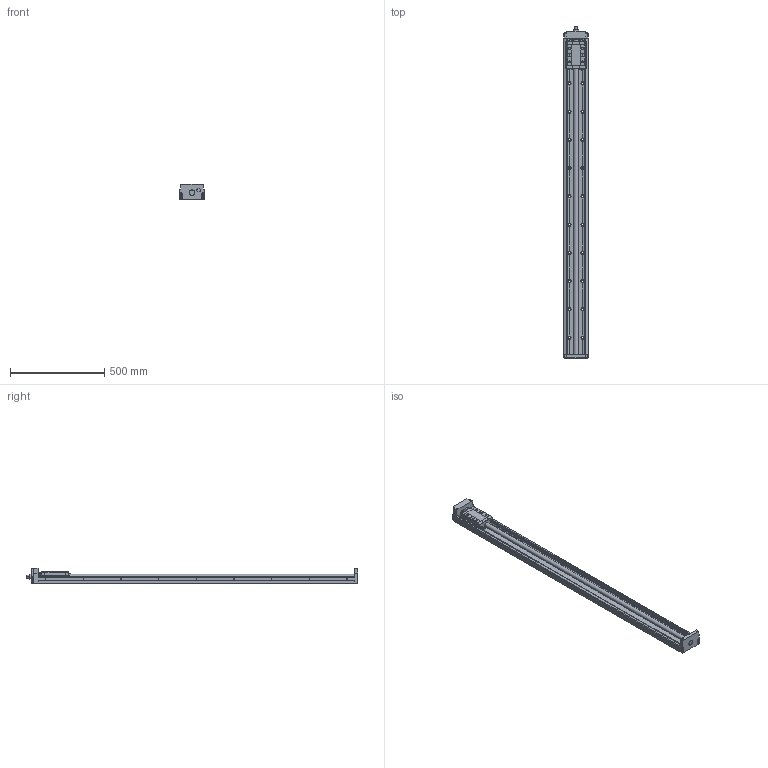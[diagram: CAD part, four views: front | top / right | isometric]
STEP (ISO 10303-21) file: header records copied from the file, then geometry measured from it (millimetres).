
FILE_DESCRIPTION(('no description'),'unknown implementation level');
FILE_NAME('KK13025P1680A1H0000_FILE_58.stp',' ',('HIWIN GmbH'),('CADClick - KiM GmbH - www.kimweb.de'),'unknown preprocess','ACIS','unknown authorization');
FILE_SCHEMA(('automotive_design'));
Length unit declared in the file: millimetre
Products named in the file (2): KK130_FILE; KK13025P1680A1H0000_FILE
Bounding box: 130 x 1762 x 83 mm (x, y, z)
Volume: 6382858.9 mm3; surface area: 913881 mm2
Topology: 2 solids, 13 shells, 810 faces, 2000 edges, 1299 vertices
Faces by surface type: plane 476, cylinder 292, torus 38, cone 2, sphere 2
Entity records: 47234 total; most frequent: DIRECTION 4362, CARTESIAN_POINT 4217, STYLED_ITEM 4109, PRESENTATION_STYLE_ASSIGNMENT 4109, COLOUR_RGB 4109, ORIENTED_EDGE 3996, EDGE_CURVE 1998, CURVE_STYLE 1998
